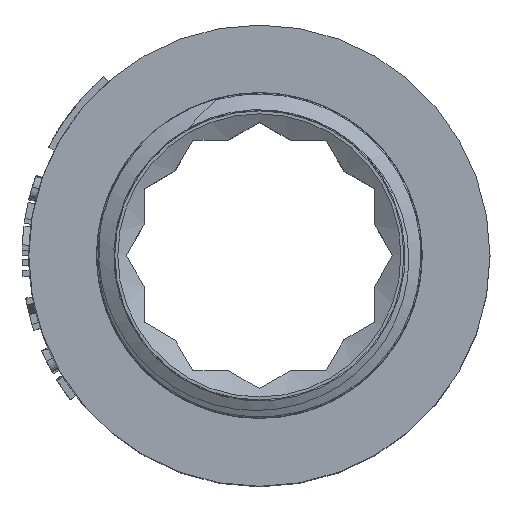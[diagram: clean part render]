
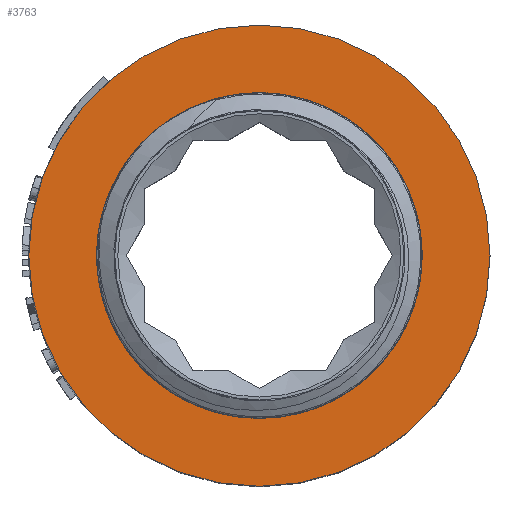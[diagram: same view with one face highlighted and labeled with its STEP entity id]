
A CAD part, top view. The second image highlights one B-rep face of the part: STEP entity #3763.
In plain terms, the highlighted planar face has unit normal (0, 0, 1).
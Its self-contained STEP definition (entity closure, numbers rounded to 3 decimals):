
#83=FACE_BOUND('',#863,.T.);
#465=PLANE('',#4019);
#639=FACE_OUTER_BOUND('',#862,.T.);
#862=EDGE_LOOP('',(#3342,#3343));
#863=EDGE_LOOP('',(#3344,#3345));
#1346=CIRCLE('',#3825,10.72);
#1349=CIRCLE('',#3828,10.72);
#1370=CIRCLE('',#3868,17.1);
#1371=CIRCLE('',#3869,17.1);
#1450=VERTEX_POINT('',#4756);
#1451=VERTEX_POINT('',#4757);
#1498=VERTEX_POINT('',#5004);
#1499=VERTEX_POINT('',#5005);
#1836=EDGE_CURVE('',#1450,#1451,#1346,.T.);
#1840=EDGE_CURVE('',#1451,#1450,#1349,.T.);
#1907=EDGE_CURVE('',#1498,#1499,#1370,.T.);
#1908=EDGE_CURVE('',#1499,#1498,#1371,.T.);
#3342=ORIENTED_EDGE('',*,*,#1907,.T.);
#3343=ORIENTED_EDGE('',*,*,#1908,.T.);
#3344=ORIENTED_EDGE('',*,*,#1836,.F.);
#3345=ORIENTED_EDGE('',*,*,#1840,.F.);
#3763=ADVANCED_FACE('',(#639,#83),#465,.T.);
#3825=AXIS2_PLACEMENT_3D('',#4758,#4064,#4065);
#3828=AXIS2_PLACEMENT_3D('',#4764,#4071,#4072);
#3868=AXIS2_PLACEMENT_3D('',#5006,#4187,#4188);
#3869=AXIS2_PLACEMENT_3D('',#5007,#4189,#4190);
#4019=AXIS2_PLACEMENT_3D('',#7662,#4654,#4655);
#4064=DIRECTION('center_axis',(0.,0.,1.));
#4065=DIRECTION('ref_axis',(1.,0.,0.));
#4071=DIRECTION('center_axis',(0.,0.,1.));
#4072=DIRECTION('ref_axis',(1.,0.,0.));
#4187=DIRECTION('center_axis',(0.,0.,1.));
#4188=DIRECTION('ref_axis',(1.,0.,0.));
#4189=DIRECTION('center_axis',(0.,0.,1.));
#4190=DIRECTION('ref_axis',(1.,0.,0.));
#4654=DIRECTION('center_axis',(0.,0.,1.));
#4655=DIRECTION('ref_axis',(1.,0.,0.));
#4756=CARTESIAN_POINT('',(0.,10.72,-12.));
#4757=CARTESIAN_POINT('',(0.,-10.72,-12.));
#4758=CARTESIAN_POINT('Origin',(0.,0.,-12.));
#4764=CARTESIAN_POINT('Origin',(0.,0.,-12.));
#5004=CARTESIAN_POINT('',(0.,-17.1,-12.));
#5005=CARTESIAN_POINT('',(0.,17.1,-12.));
#5006=CARTESIAN_POINT('Origin',(0.,0.,-12.));
#5007=CARTESIAN_POINT('Origin',(0.,0.,-12.));
#7662=CARTESIAN_POINT('Origin',(0.,-12.065,-12.));
